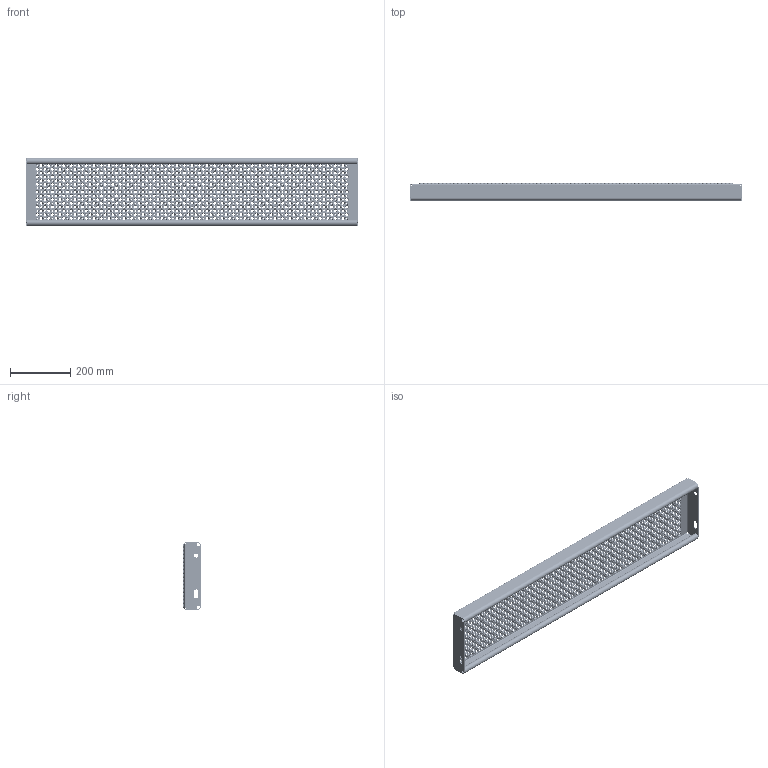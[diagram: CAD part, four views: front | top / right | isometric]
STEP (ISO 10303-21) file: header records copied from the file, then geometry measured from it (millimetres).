
FILE_DESCRIPTION (( 'STEP AP214' ), '1' );
FILE_NAME ('OPTIMO-Tread-Achil-O2-1100x225x57x2-st240-F100210100.STEP', '2021-03-16T07:19:01', ( '' ), ( '' ), 'SwSTEP 2.0', 'SolidWorks 2021', '' );
FILE_SCHEMA (( 'AUTOMOTIVE_DESIGN' ));
Products named in the file (1): OPTIMO-Tread-Achil-O2-1100x225x57x2-st240-F100210100
Bounding box: 1100 x 57 x 225 mm (x, y, z)
Volume: 935885.8 mm3; surface area: 1011321.4 mm2
Topology: 1 solids, 1 shells, 14192 faces, 36886 edges, 22696 vertices
Faces by surface type: cone 8466, torus 5644, plane 38, cylinder 36, bspline 8
Entity records: 451612 total; most frequent: DIRECTION 93500, CARTESIAN_POINT 74367, ORIENTED_EDGE 73772, AXIS2_PLACEMENT_3D 42461, EDGE_CURVE 36886, CIRCLE 28276, VERTEX_POINT 22696, EDGE_LOOP 17022
